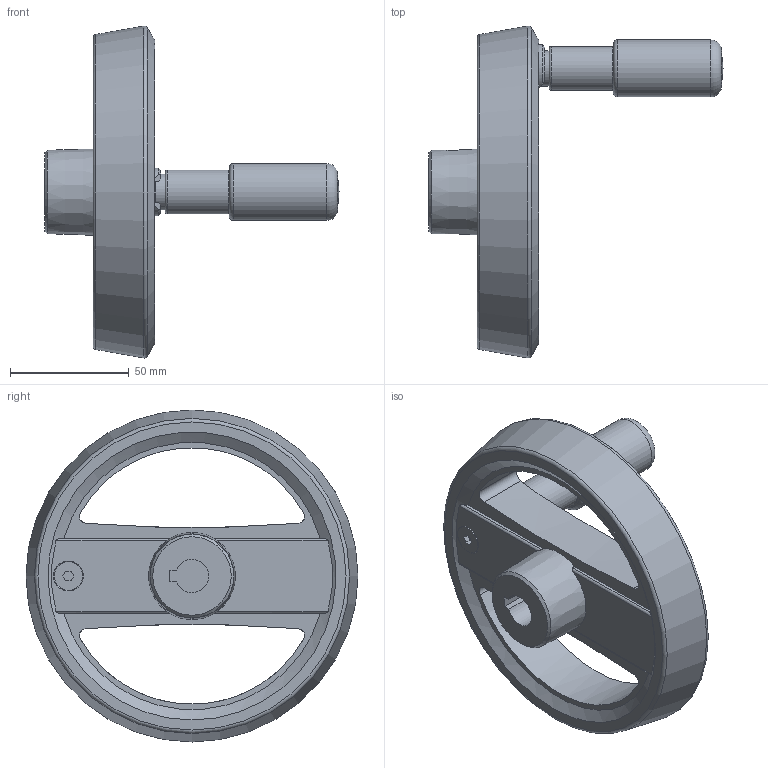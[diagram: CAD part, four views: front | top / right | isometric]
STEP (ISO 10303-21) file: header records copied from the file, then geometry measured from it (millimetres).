
FILE_DESCRIPTION( ( 'STEP AP203' ), '1' );
FILE_NAME( 'C:/Temp/Ganter_Step_05_03_2020/data/1_3/gn_924_7/gn_924_7_k/Handwheel with retractable handle GN 924.7-140-K14-R-SR (activated).stp', '2020-03-05T10:41:58', ( 'License CC BY-ND 4.0' ), ( 'CADENAS' ), ' ', 'PARTsolutions', ' ' );
FILE_SCHEMA( ( 'CONFIG_CONTROL_DESIGN' ) );
Length unit declared in the file: millimetre
Products named in the file (3): Handwheel with retractable handle GN 924.7-140-K14-R-SR (activated); _Umleggriff-Handrad GN 924.7-140-K14-R-SR-1; _Umleggriff-Handrad GN 924.7-140-K14-R-SR (90)-2
Assembly tree (2 placements, depth 2):
  Handwheel with retractable handle GN 924.7-140-K14-R-SR (activated)
    _Umleggriff-Handrad GN 924.7-140-K14-R-SR-1
    _Umleggriff-Handrad GN 924.7-140-K14-R-SR (90)-2
Bounding box: 123.7 x 139.68 x 139.68 mm (x, y, z)
Volume: 223698.7 mm3; surface area: 57965.4 mm2
Topology: 2 solids, 2 shells, 105 faces, 266 edges, 172 vertices
Faces by surface type: plane 47, cylinder 38, cone 10, torus 8, sphere 2
Full cylindrical faces by diameter (mm): 4 x4, 5 x1, 8 x1, 12 x1, 15 x1, 18.5 x1, 20 x1, 24 x1, 25 x1, 26.6 x1
Entity records: 3443 total; most frequent: CARTESIAN_POINT 980, DIRECTION 490, ORIENTED_EDGE 446, EDGE_CURVE 223, AXIS2_PLACEMENT_3D 201, VERTEX_POINT 164, EDGE_LOOP 152, FACE_OUTER_BOUND 125
